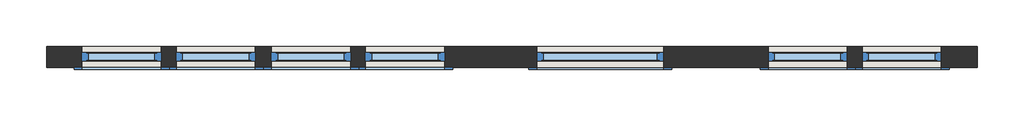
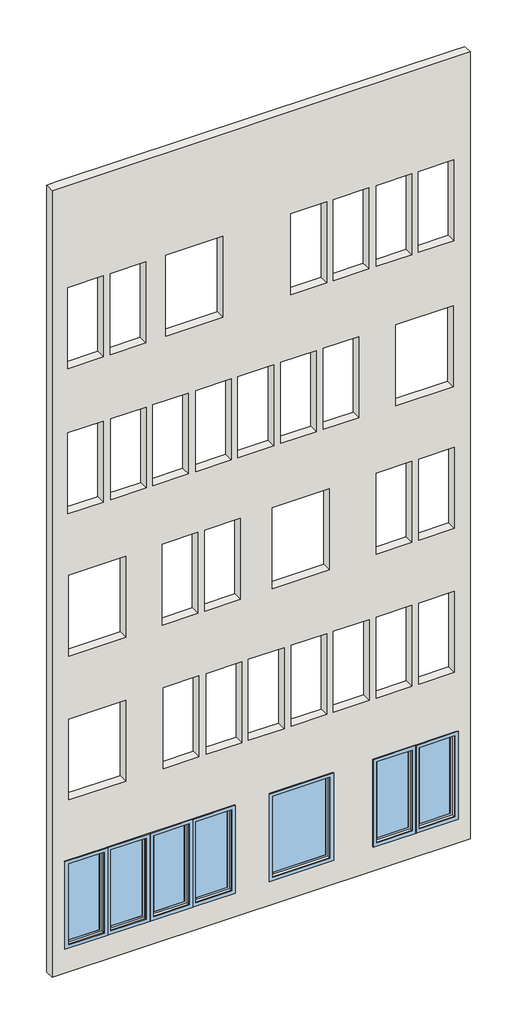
# One storey: 7 windows, 1 wall.
"""IFC4 building model written with IfcOpenShell, lengths in millimetres."""

from ifc_helpers import new_model, si_unit, origin, place, context, project, spatial, faceted_brep, transform, mapped, element, save
from components import window_fixed_trim_with_double_glass_750_x_1500_mm_20c75347, window_fixed_trim_with_double_glass_750_x_1500_mm_2_a35bcce7

model = new_model("IFC4")

# Units and contexts
model_context = context("Model", 3, world=origin())
ifc_project = project(units=[si_unit("LENGTHUNIT", "METRE", prefix="MILLI")], contexts=[model_context])

# Site, building, storey
site = spatial("IfcSite", under=ifc_project)
building = spatial("IfcBuilding", under=site)
storey = spatial("IfcBuildingStorey", under=building, Name="طبقه 1", Elevation=3200.0)

# Wall
placement = place(None, origin())
element("IfcWall", 1, ObjectType="Generic - 200mm", at=placement, inside=storey, context=model_context, shape_type="Brep", body=[
    faceted_brep([(-6361.8945901, 831.9973325, 3200.0), (2438.1054099, 831.9973325, 3200.0), (2438.1054099, 831.9973325, 20700.0), (-6361.8945901, 831.9973325, 20700.0), (2098.1054099, 831.9973325, 3820.0), (1348.1054099, 831.9973325, 3820.0), (1348.1054099, 831.9973325, 5620.0), (2098.1054099, 831.9973325, 5620.0), (1208.1054099, 831.9973325, 3820.0), (458.1054099, 831.9973325, 3820.0), (458.1054099, 831.9973325, 5620.0), (1208.1054099, 831.9973325, 5620.0), (-526.8945901, 831.9973325, 3820.0), (-1726.8945901, 831.9973325, 3820.0), (-1726.8945901, 831.9973325, 5620.0), (-526.8945901, 831.9973325, 5620.0), (-3486.8945901, 831.9973325, 3820.0), (-4236.8945901, 831.9973325, 3820.0), (-4236.8945901, 831.9973325, 5620.0), (-3486.8945901, 831.9973325, 5620.0), (-2596.8945901, 831.9973325, 3820.0), (-3346.8945901, 831.9973325, 3820.0), (-3346.8945901, 831.9973325, 5620.0), (-2596.8945901, 831.9973325, 5620.0), (-5276.8945901, 831.9973325, 3820.0), (-6026.8945901, 831.9973325, 3820.0), (-6026.8945901, 831.9973325, 5620.0), (-5276.8945901, 831.9973325, 5620.0), (-4386.8945901, 831.9973325, 3820.0), (-5136.8945901, 831.9973325, 3820.0), (-5136.8945901, 831.9973325, 5620.0), (-4386.8945901, 831.9973325, 5620.0), (-4811.8945901, 831.9973325, 7025.0), (-6011.8945901, 831.9973325, 7025.0), (-6011.8945901, 831.9973325, 8825.0), (-4811.8945901, 831.9973325, 8825.0), (-4811.8945901, 831.9973325, 10225.0), (-6011.8945901, 831.9973325, 10225.0), (-6011.8945901, 831.9973325, 12025.0), (-4811.8945901, 831.9973325, 12025.0), (1208.1054099, 831.9973325, 10225.0), (458.1054099, 831.9973325, 10225.0), (458.1054099, 831.9973325, 12025.0), (1208.1054099, 831.9973325, 12025.0), (2098.1054099, 831.9973325, 10225.0), (1348.1054099, 831.9973325, 10225.0), (1348.1054099, 831.9973325, 12025.0), (2098.1054099, 831.9973325, 12025.0), (-3291.8945901, 831.9973325, 10225.0), (-4041.8945901, 831.9973325, 10225.0), (-4041.8945901, 831.9973325, 12025.0), (-3291.8945901, 831.9973325, 12025.0), (-2401.8945901, 831.9973325, 10225.0), (-3151.8945901, 831.9973325, 10225.0), (-3151.8945901, 831.9973325, 12025.0), (-2401.8945901, 831.9973325, 12025.0), (-526.8945901, 831.9973325, 10225.0), (-1726.8945901, 831.9973325, 10225.0), (-1726.8945901, 831.9973325, 12025.0), (-526.8945901, 831.9973325, 12025.0), (2073.1054099, 831.9973325, 13385.0), (873.1054099, 831.9973325, 13385.0), (873.1054099, 831.9973325, 15185.0), (2073.1054099, 831.9973325, 15185.0), (1208.1054099, 831.9973325, 7025.0), (458.1054099, 831.9973325, 7025.0), (458.1054099, 831.9973325, 8825.0), (1208.1054099, 831.9973325, 8825.0), (2098.1054099, 831.9973325, 7025.0), (1348.1054099, 831.9973325, 7025.0), (1348.1054099, 831.9973325, 8825.0), (2098.1054099, 831.9973325, 8825.0), (-581.8945901, 831.9973325, 7025.0), (-1331.8945901, 831.9973325, 7025.0), (-1331.8945901, 831.9973325, 8825.0), (-581.8945901, 831.9973325, 8825.0), (308.1054099, 831.9973325, 7025.0), (-441.8945901, 831.9973325, 7025.0), (-441.8945901, 831.9973325, 8825.0), (308.1054099, 831.9973325, 8825.0), (-2371.8945901, 831.9973325, 7025.0), (-3121.8945901, 831.9973325, 7025.0), (-3121.8945901, 831.9973325, 8825.0), (-2371.8945901, 831.9973325, 8825.0), (-1481.8945901, 831.9973325, 7025.0), (-2231.8945901, 831.9973325, 7025.0), (-2231.8945901, 831.9973325, 8825.0), (-1481.8945901, 831.9973325, 8825.0), (-3271.8945901, 831.9973325, 7025.0), (-4021.8945901, 831.9973325, 7025.0), (-4021.8945901, 831.9973325, 8825.0), (-3271.8945901, 831.9973325, 8825.0), (-5281.8945901, 831.9973325, 13392.6210566), (-6031.8945901, 831.9973325, 13392.6210566), (-6031.8945901, 831.9973325, 15192.6210566), (-5281.8945901, 831.9973325, 15192.6210566), (-4381.8945901, 831.9973325, 13392.6210566), (-5131.8945901, 831.9973325, 13392.6210566), (-5131.8945901, 831.9973325, 15192.6210566), (-4381.8945901, 831.9973325, 15192.6210566), (-3491.8945901, 831.9973325, 13392.6210566), (-4241.8945901, 831.9973325, 13392.6210566), (-4241.8945901, 831.9973325, 15192.6210566), (-3491.8945901, 831.9973325, 15192.6210566), (-2591.8945901, 831.9973325, 13392.6210566), (-3341.8945901, 831.9973325, 13392.6210566), (-3341.8945901, 831.9973325, 15192.6210566), (-2591.8945901, 831.9973325, 15192.6210566), (-1701.8945901, 831.9973325, 13392.6210566), (-2451.8945901, 831.9973325, 13392.6210566), (-2451.8945901, 831.9973325, 15192.6210566), (-1701.8945901, 831.9973325, 15192.6210566), (-801.8945901, 831.9973325, 13392.6210566), (-1551.8945901, 831.9973325, 13392.6210566), (-1551.8945901, 831.9973325, 15192.6210566), (-801.8945901, 831.9973325, 15192.6210566), (88.1054099, 831.9973325, 13392.6210566), (-661.8945901, 831.9973325, 13392.6210566), (-661.8945901, 831.9973325, 15192.6210566), (88.1054099, 831.9973325, 15192.6210566), (-586.8945901, 831.9973325, 16625.0), (-1336.8945901, 831.9973325, 16625.0), (-1336.8945901, 831.9973325, 18425.0), (-586.8945901, 831.9973325, 18425.0), (303.1054099, 831.9973325, 16625.0), (-446.8945901, 831.9973325, 16625.0), (-446.8945901, 831.9973325, 18425.0), (303.1054099, 831.9973325, 18425.0), (1203.1054099, 831.9973325, 16625.0), (453.1054099, 831.9973325, 16625.0), (453.1054099, 831.9973325, 18425.0), (1203.1054099, 831.9973325, 18425.0), (2093.1054099, 831.9973325, 16625.0), (1343.1054099, 831.9973325, 16625.0), (1343.1054099, 831.9973325, 18425.0), (2093.1054099, 831.9973325, 18425.0), (-2767.5938083, 831.9973325, 16625.0), (-3967.5938083, 831.9973325, 16625.0), (-3967.5938083, 831.9973325, 18425.0), (-2767.5938083, 831.9973325, 18425.0), (-5281.8945901, 831.9973325, 16625.0), (-6031.8945901, 831.9973325, 16625.0), (-6031.8945901, 831.9973325, 18425.0), (-5281.8945901, 831.9973325, 18425.0), (-4391.8945901, 831.9973325, 16625.0), (-5141.8945901, 831.9973325, 16625.0), (-5141.8945901, 831.9973325, 18425.0), (-4391.8945901, 831.9973325, 18425.0), (-6361.8945901, 1031.9973325, 3200.0), (-6361.8945901, 1031.9973325, 20700.0), (-6161.8945901, 1031.9973325, 20700.0), (2238.1054099, 1031.9973325, 20700.0), (2438.1054099, 1031.9973325, 20700.0), (2438.1054099, 1031.9973325, 3200.0), (2098.1054099, 1031.9973325, 3820.0), (2098.1054099, 1031.9973325, 5620.0), (1348.1054099, 1031.9973325, 5620.0), (1348.1054099, 1031.9973325, 3820.0), (1208.1054099, 1031.9973325, 3820.0), (1208.1054099, 1031.9973325, 5620.0), (458.1054099, 1031.9973325, 5620.0), (458.1054099, 1031.9973325, 3820.0), (-526.8945901, 1031.9973325, 3820.0), (-526.8945901, 1031.9973325, 5620.0), (-1726.8945901, 1031.9973325, 5620.0), (-1726.8945901, 1031.9973325, 3820.0), (-3486.8945901, 1031.9973325, 3820.0), (-3486.8945901, 1031.9973325, 5620.0), (-4236.8945901, 1031.9973325, 5620.0), (-4236.8945901, 1031.9973325, 3820.0), (-2596.8945901, 1031.9973325, 3820.0), (-2596.8945901, 1031.9973325, 5620.0), (-3346.8945901, 1031.9973325, 5620.0), (-3346.8945901, 1031.9973325, 3820.0), (-5276.8945901, 1031.9973325, 3820.0), (-5276.8945901, 1031.9973325, 5620.0), (-6026.8945901, 1031.9973325, 5620.0), (-6026.8945901, 1031.9973325, 3820.0), (-4386.8945901, 1031.9973325, 3820.0), (-4386.8945901, 1031.9973325, 5620.0), (-5136.8945901, 1031.9973325, 5620.0), (-5136.8945901, 1031.9973325, 3820.0), (-4811.8945901, 1031.9973325, 7025.0), (-4811.8945901, 1031.9973325, 8825.0), (-6011.8945901, 1031.9973325, 8825.0), (-6011.8945901, 1031.9973325, 7025.0), (-4811.8945901, 1031.9973325, 10225.0), (-4811.8945901, 1031.9973325, 12025.0), (-6011.8945901, 1031.9973325, 12025.0), (-6011.8945901, 1031.9973325, 10225.0), (1208.1054099, 1031.9973325, 10225.0), (1208.1054099, 1031.9973325, 12025.0), (458.1054099, 1031.9973325, 12025.0), (458.1054099, 1031.9973325, 10225.0), (2098.1054099, 1031.9973325, 10225.0), (2098.1054099, 1031.9973325, 12025.0), (1348.1054099, 1031.9973325, 12025.0), (1348.1054099, 1031.9973325, 10225.0), (-3291.8945901, 1031.9973325, 10225.0), (-3291.8945901, 1031.9973325, 12025.0), (-4041.8945901, 1031.9973325, 12025.0), (-4041.8945901, 1031.9973325, 10225.0), (-2401.8945901, 1031.9973325, 10225.0), (-2401.8945901, 1031.9973325, 12025.0), (-3151.8945901, 1031.9973325, 12025.0), (-3151.8945901, 1031.9973325, 10225.0), (-526.8945901, 1031.9973325, 10225.0), (-526.8945901, 1031.9973325, 12025.0), (-1726.8945901, 1031.9973325, 12025.0), (-1726.8945901, 1031.9973325, 10225.0), (2073.1054099, 1031.9973325, 13385.0), (2073.1054099, 1031.9973325, 15185.0), (873.1054099, 1031.9973325, 15185.0), (873.1054099, 1031.9973325, 13385.0), (1208.1054099, 1031.9973325, 7025.0), (1208.1054099, 1031.9973325, 8825.0), (458.1054099, 1031.9973325, 8825.0), (458.1054099, 1031.9973325, 7025.0), (2098.1054099, 1031.9973325, 7025.0), (2098.1054099, 1031.9973325, 8825.0), (1348.1054099, 1031.9973325, 8825.0), (1348.1054099, 1031.9973325, 7025.0), (-581.8945901, 1031.9973325, 7025.0), (-581.8945901, 1031.9973325, 8825.0), (-1331.8945901, 1031.9973325, 8825.0), (-1331.8945901, 1031.9973325, 7025.0), (308.1054099, 1031.9973325, 7025.0), (308.1054099, 1031.9973325, 8825.0), (-441.8945901, 1031.9973325, 8825.0), (-441.8945901, 1031.9973325, 7025.0), (-2371.8945901, 1031.9973325, 7025.0), (-2371.8945901, 1031.9973325, 8825.0), (-3121.8945901, 1031.9973325, 8825.0), (-3121.8945901, 1031.9973325, 7025.0), (-1481.8945901, 1031.9973325, 7025.0), (-1481.8945901, 1031.9973325, 8825.0), (-2231.8945901, 1031.9973325, 8825.0), (-2231.8945901, 1031.9973325, 7025.0), (-3271.8945901, 1031.9973325, 7025.0), (-3271.8945901, 1031.9973325, 8825.0), (-4021.8945901, 1031.9973325, 8825.0), (-4021.8945901, 1031.9973325, 7025.0), (-5281.8945901, 1031.9973325, 13392.6210566), (-5281.8945901, 1031.9973325, 15192.6210566), (-6031.8945901, 1031.9973325, 15192.6210566), (-6031.8945901, 1031.9973325, 13392.6210566), (-4381.8945901, 1031.9973325, 13392.6210566), (-4381.8945901, 1031.9973325, 15192.6210566), (-5131.8945901, 1031.9973325, 15192.6210566), (-5131.8945901, 1031.9973325, 13392.6210566), (-3491.8945901, 1031.9973325, 13392.6210566), (-3491.8945901, 1031.9973325, 15192.6210566), (-4241.8945901, 1031.9973325, 15192.6210566), (-4241.8945901, 1031.9973325, 13392.6210566), (-2591.8945901, 1031.9973325, 13392.6210566), (-2591.8945901, 1031.9973325, 15192.6210566), (-3341.8945901, 1031.9973325, 15192.6210566), (-3341.8945901, 1031.9973325, 13392.6210566), (-1701.8945901, 1031.9973325, 13392.6210566), (-1701.8945901, 1031.9973325, 15192.6210566), (-2451.8945901, 1031.9973325, 15192.6210566), (-2451.8945901, 1031.9973325, 13392.6210566), (-801.8945901, 1031.9973325, 13392.6210566), (-801.8945901, 1031.9973325, 15192.6210566), (-1551.8945901, 1031.9973325, 15192.6210566), (-1551.8945901, 1031.9973325, 13392.6210566), (88.1054099, 1031.9973325, 13392.6210566), (88.1054099, 1031.9973325, 15192.6210566), (-661.8945901, 1031.9973325, 15192.6210566), (-661.8945901, 1031.9973325, 13392.6210566), (-586.8945901, 1031.9973325, 16625.0), (-586.8945901, 1031.9973325, 18425.0), (-1336.8945901, 1031.9973325, 18425.0), (-1336.8945901, 1031.9973325, 16625.0), (303.1054099, 1031.9973325, 16625.0), (303.1054099, 1031.9973325, 18425.0), (-446.8945901, 1031.9973325, 18425.0), (-446.8945901, 1031.9973325, 16625.0), (1203.1054099, 1031.9973325, 16625.0), (1203.1054099, 1031.9973325, 18425.0), (453.1054099, 1031.9973325, 18425.0), (453.1054099, 1031.9973325, 16625.0), (2093.1054099, 1031.9973325, 16625.0), (2093.1054099, 1031.9973325, 18425.0), (1343.1054099, 1031.9973325, 18425.0), (1343.1054099, 1031.9973325, 16625.0), (-2767.5938083, 1031.9973325, 16625.0), (-2767.5938083, 1031.9973325, 18425.0), (-3967.5938083, 1031.9973325, 18425.0), (-3967.5938083, 1031.9973325, 16625.0), (-5281.8945901, 1031.9973325, 16625.0), (-5281.8945901, 1031.9973325, 18425.0), (-6031.8945901, 1031.9973325, 18425.0), (-6031.8945901, 1031.9973325, 16625.0), (-4391.8945901, 1031.9973325, 16625.0), (-4391.8945901, 1031.9973325, 18425.0), (-5141.8945901, 1031.9973325, 18425.0), (-5141.8945901, 1031.9973325, 16625.0)], [[[0, 1, 2, 3], [4, 5, 6, 7], [8, 9, 10, 11], [12, 13, 14, 15], [16, 17, 18, 19], [20, 21, 22, 23], [24, 25, 26, 27], [28, 29, 30, 31], [32, 33, 34, 35], [36, 37, 38, 39], [40, 41, 42, 43], [44, 45, 46, 47], [48, 49, 50, 51], [52, 53, 54, 55], [56, 57, 58, 59], [60, 61, 62, 63], [64, 65, 66, 67], [68, 69, 70, 71], [72, 73, 74, 75], [76, 77, 78, 79], [80, 81, 82, 83], [84, 85, 86, 87], [88, 89, 90, 91], [92, 93, 94, 95], [96, 97, 98, 99], [100, 101, 102, 103], [104, 105, 106, 107], [108, 109, 110, 111], [112, 113, 114, 115], [116, 117, 118, 119], [120, 121, 122, 123], [124, 125, 126, 127], [128, 129, 130, 131], [132, 133, 134, 135], [136, 137, 138, 139], [140, 141, 142, 143], [144, 145, 146, 147]], [[148, 149, 150, 151, 152, 153], [154, 155, 156, 157], [158, 159, 160, 161], [162, 163, 164, 165], [166, 167, 168, 169], [170, 171, 172, 173], [174, 175, 176, 177], [178, 179, 180, 181], [182, 183, 184, 185], [186, 187, 188, 189], [190, 191, 192, 193], [194, 195, 196, 197], [198, 199, 200, 201], [202, 203, 204, 205], [206, 207, 208, 209], [210, 211, 212, 213], [214, 215, 216, 217], [218, 219, 220, 221], [222, 223, 224, 225], [226, 227, 228, 229], [230, 231, 232, 233], [234, 235, 236, 237], [238, 239, 240, 241], [242, 243, 244, 245], [246, 247, 248, 249], [250, 251, 252, 253], [254, 255, 256, 257], [258, 259, 260, 261], [262, 263, 264, 265], [266, 267, 268, 269], [270, 271, 272, 273], [274, 275, 276, 277], [278, 279, 280, 281], [282, 283, 284, 285], [286, 287, 288, 289], [290, 291, 292, 293], [294, 295, 296, 297]], [[1, 0, 148, 153]], [[3, 2, 152, 151, 150, 149]], [[2, 1, 153, 152]], [[0, 3, 149, 148]], [[155, 154, 4, 7]], [[156, 155, 7, 6]], [[157, 156, 6, 5]], [[154, 157, 5, 4]], [[159, 158, 8, 11]], [[160, 159, 11, 10]], [[161, 160, 10, 9]], [[158, 161, 9, 8]], [[163, 162, 12, 15]], [[164, 163, 15, 14]], [[165, 164, 14, 13]], [[162, 165, 13, 12]], [[167, 166, 16, 19]], [[168, 167, 19, 18]], [[169, 168, 18, 17]], [[166, 169, 17, 16]], [[171, 170, 20, 23]], [[172, 171, 23, 22]], [[173, 172, 22, 21]], [[170, 173, 21, 20]], [[175, 174, 24, 27]], [[176, 175, 27, 26]], [[177, 176, 26, 25]], [[174, 177, 25, 24]], [[179, 178, 28, 31]], [[180, 179, 31, 30]], [[181, 180, 30, 29]], [[178, 181, 29, 28]], [[183, 182, 32, 35]], [[184, 183, 35, 34]], [[185, 184, 34, 33]], [[182, 185, 33, 32]], [[187, 186, 36, 39]], [[188, 187, 39, 38]], [[189, 188, 38, 37]], [[186, 189, 37, 36]], [[191, 190, 40, 43]], [[192, 191, 43, 42]], [[193, 192, 42, 41]], [[190, 193, 41, 40]], [[195, 194, 44, 47]], [[196, 195, 47, 46]], [[197, 196, 46, 45]], [[194, 197, 45, 44]], [[199, 198, 48, 51]], [[200, 199, 51, 50]], [[201, 200, 50, 49]], [[198, 201, 49, 48]], [[203, 202, 52, 55]], [[204, 203, 55, 54]], [[205, 204, 54, 53]], [[202, 205, 53, 52]], [[207, 206, 56, 59]], [[208, 207, 59, 58]], [[209, 208, 58, 57]], [[206, 209, 57, 56]], [[211, 210, 60, 63]], [[212, 211, 63, 62]], [[213, 212, 62, 61]], [[210, 213, 61, 60]], [[215, 214, 64, 67]], [[216, 215, 67, 66]], [[217, 216, 66, 65]], [[214, 217, 65, 64]], [[219, 218, 68, 71]], [[220, 219, 71, 70]], [[221, 220, 70, 69]], [[218, 221, 69, 68]], [[223, 222, 72, 75]], [[224, 223, 75, 74]], [[225, 224, 74, 73]], [[222, 225, 73, 72]], [[227, 226, 76, 79]], [[228, 227, 79, 78]], [[229, 228, 78, 77]], [[226, 229, 77, 76]], [[231, 230, 80, 83]], [[232, 231, 83, 82]], [[233, 232, 82, 81]], [[230, 233, 81, 80]], [[235, 234, 84, 87]], [[236, 235, 87, 86]], [[237, 236, 86, 85]], [[234, 237, 85, 84]], [[239, 238, 88, 91]], [[240, 239, 91, 90]], [[241, 240, 90, 89]], [[238, 241, 89, 88]], [[243, 242, 92, 95]], [[244, 243, 95, 94]], [[245, 244, 94, 93]], [[242, 245, 93, 92]], [[247, 246, 96, 99]], [[248, 247, 99, 98]], [[249, 248, 98, 97]], [[246, 249, 97, 96]], [[251, 250, 100, 103]], [[252, 251, 103, 102]], [[253, 252, 102, 101]], [[250, 253, 101, 100]], [[255, 254, 104, 107]], [[256, 255, 107, 106]], [[257, 256, 106, 105]], [[254, 257, 105, 104]], [[259, 258, 108, 111]], [[260, 259, 111, 110]], [[261, 260, 110, 109]], [[258, 261, 109, 108]], [[263, 262, 112, 115]], [[264, 263, 115, 114]], [[265, 264, 114, 113]], [[262, 265, 113, 112]], [[267, 266, 116, 119]], [[268, 267, 119, 118]], [[269, 268, 118, 117]], [[266, 269, 117, 116]], [[271, 270, 120, 123]], [[272, 271, 123, 122]], [[273, 272, 122, 121]], [[270, 273, 121, 120]], [[275, 274, 124, 127]], [[276, 275, 127, 126]], [[277, 276, 126, 125]], [[274, 277, 125, 124]], [[279, 278, 128, 131]], [[280, 279, 131, 130]], [[281, 280, 130, 129]], [[278, 281, 129, 128]], [[283, 282, 132, 135]], [[284, 283, 135, 134]], [[285, 284, 134, 133]], [[282, 285, 133, 132]], [[287, 286, 136, 139]], [[288, 287, 139, 138]], [[289, 288, 138, 137]], [[286, 289, 137, 136]], [[291, 290, 140, 143]], [[292, 291, 143, 142]], [[293, 292, 142, 141]], [[290, 293, 141, 140]], [[295, 294, 144, 147]], [[296, 295, 147, 146]], [[297, 296, 146, 145]], [[294, 297, 145, 144]]]),
])

# Windows
window_fixed_trim_with_double_glass_750_x_1500_mm_shape = window_fixed_trim_with_double_glass_750_x_1500_mm_20c75347(model_context)
element("IfcWindow", 2, ObjectType="Window fixed-trim with double glass : 750 x 1500 mm", at=placement, inside=storey, context=model_context, shape_type="MappedRepresentation", body=[
    mapped(window_fixed_trim_with_double_glass_750_x_1500_mm_shape, transform((1723.1054099, 931.9973325, 3020.0), x_axis=(-1.0, 0.0, 0.0), y_axis=(0.0, -1.0, 0.0), z_axis=(0.0, 0.0, 1.0))),
])
element("IfcWindow", 3, ObjectType="Window fixed-trim with double glass : 750 x 1500 mm", at=placement, inside=storey, context=model_context, shape_type="MappedRepresentation", body=[
    mapped(window_fixed_trim_with_double_glass_750_x_1500_mm_shape, transform((833.1054099, 931.9973325, 3020.0), x_axis=(-1.0, 0.0, 0.0), y_axis=(0.0, -1.0, 0.0), z_axis=(0.0, 0.0, 1.0))),
])
element("IfcWindow", 4, ObjectType="Window fixed-trim with double glass : 750 x 1500 mm", at=placement, inside=storey, context=model_context, shape_type="MappedRepresentation", body=[
    mapped(window_fixed_trim_with_double_glass_750_x_1500_mm_shape, transform((-2971.8945901, 931.9973325, 3020.0), x_axis=(-1.0, 0.0, 0.0), y_axis=(0.0, -1.0, 0.0), z_axis=(0.0, 0.0, 1.0))),
])
element("IfcWindow", 5, ObjectType="Window fixed-trim with double glass : 750 x 1500 mm", at=placement, inside=storey, context=model_context, shape_type="MappedRepresentation", body=[
    mapped(window_fixed_trim_with_double_glass_750_x_1500_mm_shape, transform((-3861.8945901, 931.9973325, 3020.0), x_axis=(-1.0, 0.0, 0.0), y_axis=(0.0, -1.0, 0.0), z_axis=(0.0, 0.0, 1.0))),
])
element("IfcWindow", 6, ObjectType="Window fixed-trim with double glass : 750 x 1500 mm", at=placement, inside=storey, context=model_context, shape_type="MappedRepresentation", body=[
    mapped(window_fixed_trim_with_double_glass_750_x_1500_mm_shape, transform((-4761.8945901, 931.9973325, 3020.0), x_axis=(-1.0, 0.0, 0.0), y_axis=(0.0, -1.0, 0.0), z_axis=(0.0, 0.0, 1.0))),
])
element("IfcWindow", 7, ObjectType="Window fixed-trim with double glass : 750 x 1500 mm", at=placement, inside=storey, context=model_context, shape_type="MappedRepresentation", body=[
    mapped(window_fixed_trim_with_double_glass_750_x_1500_mm_shape, transform((-5651.8945901, 931.9973325, 3020.0), x_axis=(-1.0, 0.0, 0.0), y_axis=(0.0, -1.0, 0.0), z_axis=(0.0, 0.0, 1.0))),
])
window_fixed_trim_with_double_glass_750_x_1500_mm_2_shape = window_fixed_trim_with_double_glass_750_x_1500_mm_2_a35bcce7(model_context)
element("IfcWindow", 8, ObjectType="Window fixed-trim with double glass : 750 x 1500 mm 2", at=placement, inside=storey, context=model_context, shape_type="MappedRepresentation", body=[
    mapped(window_fixed_trim_with_double_glass_750_x_1500_mm_2_shape, transform((-1126.8945901, 931.9973325, 3020.0), x_axis=(-1.0, 0.0, 0.0), y_axis=(0.0, -1.0, 0.0), z_axis=(0.0, 0.0, 1.0))),
])

save(model, "model.ifc")
